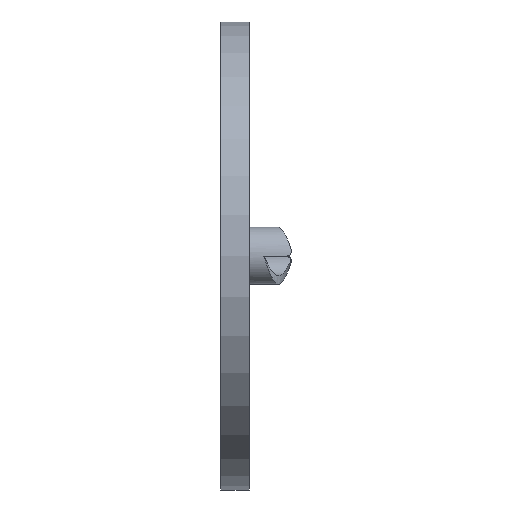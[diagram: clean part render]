
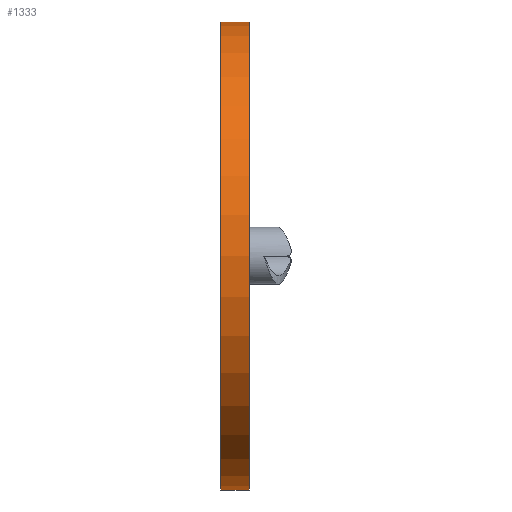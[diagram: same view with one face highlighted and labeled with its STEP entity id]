
A CAD part, left-side view. The second image highlights one B-rep face of the part: STEP entity #1333.
In plain terms, the highlighted cylindrical face has radius 50.65 mm (diameter 101.3 mm), a partial arc.
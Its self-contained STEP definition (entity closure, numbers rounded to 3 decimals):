
#36 = AXIS2_PLACEMENT_3D ( 'NONE', #520, #1508, #1667 ) ;
#75 = VERTEX_POINT ( 'NONE', #976 ) ;
#154 = EDGE_CURVE ( 'NONE', #1557, #935, #1579, .T. ) ;
#211 = CARTESIAN_POINT ( 'NONE',  ( 0., 3.125, 50.65 ) ) ;
#398 = ORIENTED_EDGE ( 'NONE', *, *, #2240, .T. ) ;
#476 = DIRECTION ( 'NONE',  ( 0., -1., 0. ) ) ;
#520 = CARTESIAN_POINT ( 'NONE',  ( 0., 3.125, 0. ) ) ;
#548 = VECTOR ( 'NONE', #760, 1000. ) ;
#564 = CARTESIAN_POINT ( 'NONE',  ( 0., 3.125, 50.65 ) ) ;
#674 = DIRECTION ( 'NONE',  ( 0., 0., -1. ) ) ;
#698 = EDGE_CURVE ( 'NONE', #778, #935, #1326, .T. ) ;
#760 = DIRECTION ( 'NONE',  ( 0., -1., 0. ) ) ;
#778 = VERTEX_POINT ( 'NONE', #2087 ) ;
#853 = LINE ( 'NONE', #1211, #1035 ) ;
#935 = VERTEX_POINT ( 'NONE', #1961 ) ;
#976 = CARTESIAN_POINT ( 'NONE',  ( 0., 3.125, -50.65 ) ) ;
#1035 = VECTOR ( 'NONE', #1578, 1000. ) ;
#1037 = ORIENTED_EDGE ( 'NONE', *, *, #154, .F. ) ;
#1073 = CARTESIAN_POINT ( 'NONE',  ( 0., 3.125, 0. ) ) ;
#1187 = CYLINDRICAL_SURFACE ( 'NONE', #1808, 50.65 ) ;
#1211 = CARTESIAN_POINT ( 'NONE',  ( 0., 3.125, -50.65 ) ) ;
#1326 = CIRCLE ( 'NONE', #1511, 50.65 ) ;
#1333 = ADVANCED_FACE ( 'NONE', ( #2011 ), #1187, .T. ) ;
#1508 = DIRECTION ( 'NONE',  ( 0., 1., 0. ) ) ;
#1511 = AXIS2_PLACEMENT_3D ( 'NONE', #2110, #2269, #2099 ) ;
#1557 = VERTEX_POINT ( 'NONE', #211 ) ;
#1578 = DIRECTION ( 'NONE',  ( 0., -1., 0. ) ) ;
#1579 = LINE ( 'NONE', #564, #548 ) ;
#1636 = ORIENTED_EDGE ( 'NONE', *, *, #2430, .F. ) ;
#1667 = DIRECTION ( 'NONE',  ( 0., 0., 1. ) ) ;
#1808 = AXIS2_PLACEMENT_3D ( 'NONE', #1073, #476, #674 ) ;
#1961 = CARTESIAN_POINT ( 'NONE',  ( 0., -3.125, 50.65 ) ) ;
#2011 = FACE_OUTER_BOUND ( 'NONE', #2049, .T. ) ;
#2049 = EDGE_LOOP ( 'NONE', ( #1037, #1636, #398, #2357 ) ) ;
#2087 = CARTESIAN_POINT ( 'NONE',  ( 0., -3.125, -50.65 ) ) ;
#2099 = DIRECTION ( 'NONE',  ( 0., 0., 1. ) ) ;
#2110 = CARTESIAN_POINT ( 'NONE',  ( 0., -3.125, 0. ) ) ;
#2240 = EDGE_CURVE ( 'NONE', #75, #778, #853, .T. ) ;
#2269 = DIRECTION ( 'NONE',  ( 0., 1., 0. ) ) ;
#2274 = CIRCLE ( 'NONE', #36, 50.65 ) ;
#2357 = ORIENTED_EDGE ( 'NONE', *, *, #698, .T. ) ;
#2430 = EDGE_CURVE ( 'NONE', #75, #1557, #2274, .T. ) ;
